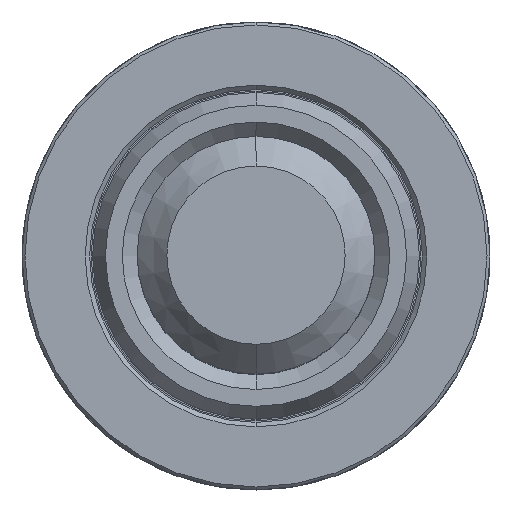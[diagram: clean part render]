
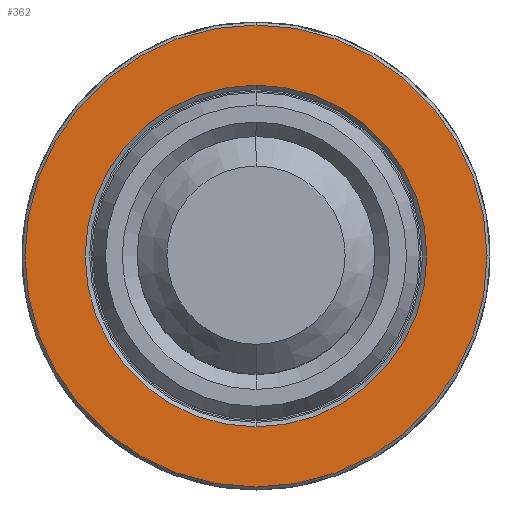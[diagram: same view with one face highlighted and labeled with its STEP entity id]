
A CAD part, top view. The second image highlights one B-rep face of the part: STEP entity #362.
In plain terms, the highlighted planar face has unit normal (0, 0, 1).
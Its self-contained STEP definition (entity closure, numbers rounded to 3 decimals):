
#64 = CARTESIAN_POINT ( 'NONE',  ( 0., -15.55, 0. ) ) ;
#69 = FACE_OUTER_BOUND ( 'NONE', #2133, .T. ) ;
#137 = DIRECTION ( 'NONE',  ( 0., 0., -1. ) ) ;
#183 = CARTESIAN_POINT ( 'NONE',  ( 0., 0., 0. ) ) ;
#209 = CARTESIAN_POINT ( 'NONE',  ( 0., -11.5, 0. ) ) ;
#225 = AXIS2_PLACEMENT_3D ( 'NONE', #1131, #137, #986 ) ;
#254 = CIRCLE ( 'NONE', #1350, 15.55 ) ;
#258 = CARTESIAN_POINT ( 'NONE',  ( 0., 15.55, 0. ) ) ;
#267 = EDGE_CURVE ( 'NONE', #373, #571, #556, .T. ) ;
#362 = ADVANCED_FACE ( 'NONE', ( #910, #69 ), #934, .T. ) ;
#373 = VERTEX_POINT ( 'NONE', #1418 ) ;
#401 = CIRCLE ( 'NONE', #225, 11.5 ) ;
#424 = AXIS2_PLACEMENT_3D ( 'NONE', #752, #2116, #444 ) ;
#444 = DIRECTION ( 'NONE',  ( 0., -1., 0. ) ) ;
#542 = DIRECTION ( 'NONE',  ( 0., 0., 1. ) ) ;
#556 = CIRCLE ( 'NONE', #1724, 11.5 ) ;
#571 = VERTEX_POINT ( 'NONE', #209 ) ;
#585 = ORIENTED_EDGE ( 'NONE', *, *, #1478, .T. ) ;
#752 = CARTESIAN_POINT ( 'NONE',  ( 11., 0., 0. ) ) ;
#859 = CARTESIAN_POINT ( 'NONE',  ( 0., 0., 0. ) ) ;
#910 = FACE_BOUND ( 'NONE', #1762, .T. ) ;
#934 = PLANE ( 'NONE',  #424 ) ;
#986 = DIRECTION ( 'NONE',  ( 0., 1., 0. ) ) ;
#1051 = DIRECTION ( 'NONE',  ( 0., 0., -1. ) ) ;
#1068 = CIRCLE ( 'NONE', #1483, 15.55 ) ;
#1131 = CARTESIAN_POINT ( 'NONE',  ( 0., 0., 0. ) ) ;
#1176 = DIRECTION ( 'NONE',  ( 0., -1., 0. ) ) ;
#1197 = DIRECTION ( 'NONE',  ( 0., 0., 1. ) ) ;
#1228 = VERTEX_POINT ( 'NONE', #64 ) ;
#1260 = EDGE_CURVE ( 'NONE', #571, #373, #401, .T. ) ;
#1267 = DIRECTION ( 'NONE',  ( 0., 1., 0. ) ) ;
#1350 = AXIS2_PLACEMENT_3D ( 'NONE', #859, #542, #1532 ) ;
#1418 = CARTESIAN_POINT ( 'NONE',  ( 0., 11.5, 0. ) ) ;
#1447 = ORIENTED_EDGE ( 'NONE', *, *, #267, .T. ) ;
#1478 = EDGE_CURVE ( 'NONE', #1228, #1742, #1068, .T. ) ;
#1483 = AXIS2_PLACEMENT_3D ( 'NONE', #183, #1197, #1176 ) ;
#1531 = CARTESIAN_POINT ( 'NONE',  ( 0., 0., 0. ) ) ;
#1532 = DIRECTION ( 'NONE',  ( 0., -1., 0. ) ) ;
#1724 = AXIS2_PLACEMENT_3D ( 'NONE', #1531, #1051, #1267 ) ;
#1729 = ORIENTED_EDGE ( 'NONE', *, *, #1850, .T. ) ;
#1742 = VERTEX_POINT ( 'NONE', #258 ) ;
#1762 = EDGE_LOOP ( 'NONE', ( #1964, #1447 ) ) ;
#1850 = EDGE_CURVE ( 'NONE', #1742, #1228, #254, .T. ) ;
#1964 = ORIENTED_EDGE ( 'NONE', *, *, #1260, .T. ) ;
#2116 = DIRECTION ( 'NONE',  ( 0., 0., 1. ) ) ;
#2133 = EDGE_LOOP ( 'NONE', ( #1729, #585 ) ) ;
